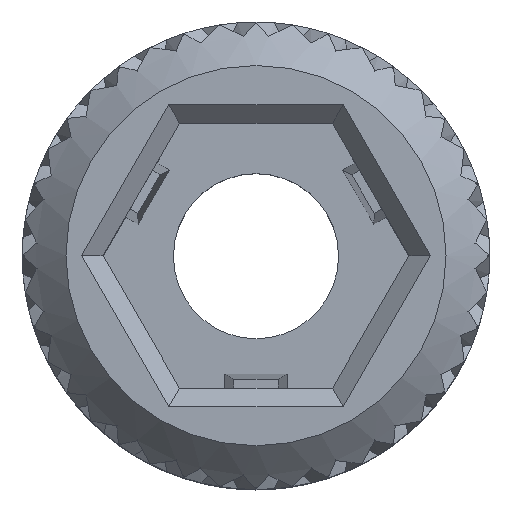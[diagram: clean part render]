
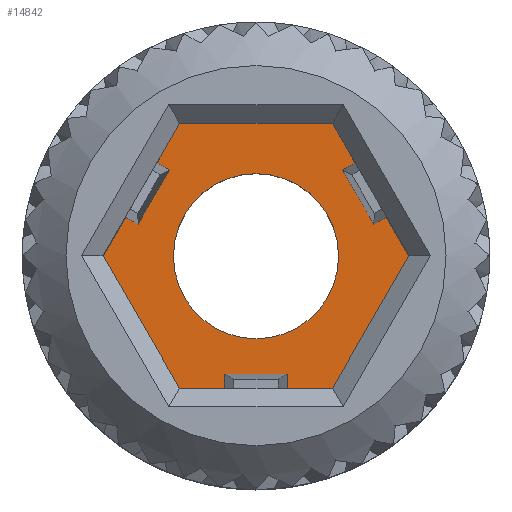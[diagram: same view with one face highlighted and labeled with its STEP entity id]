
A CAD part, top view. The second image highlights one B-rep face of the part: STEP entity #14842.
In plain terms, the highlighted planar face has unit normal (0, 0, 1).
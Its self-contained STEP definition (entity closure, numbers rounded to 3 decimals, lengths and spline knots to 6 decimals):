
#28=PLANE('',#15931);
#144=LINE('',#27961,#370);
#148=LINE('',#27969,#374);
#151=LINE('',#27975,#377);
#154=LINE('',#27981,#380);
#158=LINE('',#27989,#384);
#161=LINE('',#27995,#387);
#164=LINE('',#28001,#390);
#168=LINE('',#28009,#394);
#170=LINE('',#28012,#396);
#171=LINE('',#28014,#397);
#172=LINE('',#28016,#398);
#173=LINE('',#28018,#399);
#174=LINE('',#28019,#400);
#175=LINE('',#28021,#401);
#176=LINE('',#28023,#402);
#177=LINE('',#28024,#403);
#178=LINE('',#28026,#404);
#179=LINE('',#28028,#405);
#370=VECTOR('',#16508,1.);
#374=VECTOR('',#16512,1.);
#377=VECTOR('',#16517,1.);
#380=VECTOR('',#16522,1.);
#384=VECTOR('',#16526,1.);
#387=VECTOR('',#16531,1.);
#390=VECTOR('',#16536,1.);
#394=VECTOR('',#16540,1.);
#396=VECTOR('',#16544,1.);
#397=VECTOR('',#16547,1.);
#398=VECTOR('',#16548,1.);
#399=VECTOR('',#16549,1.);
#400=VECTOR('',#16550,1.);
#401=VECTOR('',#16551,1.);
#402=VECTOR('',#16552,1.);
#403=VECTOR('',#16553,1.);
#404=VECTOR('',#16554,1.);
#405=VECTOR('',#16555,1.);
#2403=CIRCLE('',#15920,0.00265);
#3872=ORIENTED_EDGE('',*,*,#8390,.F.);
#3873=ORIENTED_EDGE('',*,*,#8391,.T.);
#3874=ORIENTED_EDGE('',*,*,#8392,.T.);
#3875=ORIENTED_EDGE('',*,*,#8373,.T.);
#3876=ORIENTED_EDGE('',*,*,#8380,.T.);
#3877=ORIENTED_EDGE('',*,*,#8387,.T.);
#3878=ORIENTED_EDGE('',*,*,#8393,.F.);
#3879=ORIENTED_EDGE('',*,*,#8394,.T.);
#3880=ORIENTED_EDGE('',*,*,#8395,.T.);
#3881=ORIENTED_EDGE('',*,*,#8383,.T.);
#3882=ORIENTED_EDGE('',*,*,#8389,.T.);
#3883=ORIENTED_EDGE('',*,*,#8367,.T.);
#3884=ORIENTED_EDGE('',*,*,#8396,.F.);
#3885=ORIENTED_EDGE('',*,*,#8397,.T.);
#3886=ORIENTED_EDGE('',*,*,#8398,.T.);
#3887=ORIENTED_EDGE('',*,*,#8363,.T.);
#3888=ORIENTED_EDGE('',*,*,#8370,.T.);
#3889=ORIENTED_EDGE('',*,*,#8377,.T.);
#3890=ORIENTED_EDGE('',*,*,#8348,.F.);
#8348=EDGE_CURVE('',#10450,#10450,#2403,.T.);
#8363=EDGE_CURVE('',#10465,#10464,#144,.T.);
#8367=EDGE_CURVE('',#10461,#10468,#148,.T.);
#8370=EDGE_CURVE('',#10464,#10470,#151,.T.);
#8373=EDGE_CURVE('',#10473,#10472,#154,.T.);
#8377=EDGE_CURVE('',#10470,#10476,#158,.T.);
#8380=EDGE_CURVE('',#10472,#10478,#161,.T.);
#8383=EDGE_CURVE('',#10481,#10480,#164,.T.);
#8387=EDGE_CURVE('',#10478,#10484,#168,.T.);
#8389=EDGE_CURVE('',#10480,#10461,#170,.T.);
#8390=EDGE_CURVE('',#10485,#10476,#171,.T.);
#8391=EDGE_CURVE('',#10485,#10486,#172,.T.);
#8392=EDGE_CURVE('',#10486,#10473,#173,.T.);
#8393=EDGE_CURVE('',#10487,#10484,#174,.T.);
#8394=EDGE_CURVE('',#10487,#10488,#175,.T.);
#8395=EDGE_CURVE('',#10488,#10481,#176,.T.);
#8396=EDGE_CURVE('',#10489,#10468,#177,.T.);
#8397=EDGE_CURVE('',#10489,#10490,#178,.T.);
#8398=EDGE_CURVE('',#10490,#10465,#179,.T.);
#10450=VERTEX_POINT('',#27896);
#10461=VERTEX_POINT('',#27955);
#10464=VERTEX_POINT('',#27960);
#10465=VERTEX_POINT('',#27962);
#10468=VERTEX_POINT('',#27968);
#10470=VERTEX_POINT('',#27974);
#10472=VERTEX_POINT('',#27980);
#10473=VERTEX_POINT('',#27982);
#10476=VERTEX_POINT('',#27988);
#10478=VERTEX_POINT('',#27994);
#10480=VERTEX_POINT('',#28000);
#10481=VERTEX_POINT('',#28002);
#10484=VERTEX_POINT('',#28008);
#10485=VERTEX_POINT('',#28015);
#10486=VERTEX_POINT('',#28017);
#10487=VERTEX_POINT('',#28020);
#10488=VERTEX_POINT('',#28022);
#10489=VERTEX_POINT('',#28025);
#10490=VERTEX_POINT('',#28027);
#12253=EDGE_LOOP('',(#3872,#3873,#3874,#3875,#3876,#3877,#3878,#3879,#3880,
#3881,#3882,#3883,#3884,#3885,#3886,#3887,#3888,#3889));
#12254=EDGE_LOOP('',(#3890));
#13449=FACE_BOUND('',#12253,.T.);
#13450=FACE_BOUND('',#12254,.T.);
#14842=ADVANCED_FACE('',(#13449,#13450),#28,.T.);
#15920=AXIS2_PLACEMENT_3D('',#27895,#16487,#16488);
#15931=AXIS2_PLACEMENT_3D('',#28013,#16545,#16546);
#16487=DIRECTION('',(0.,0.,1.));
#16488=DIRECTION('',(1.,0.,0.));
#16508=DIRECTION('',(-0.5,0.866,0.));
#16512=DIRECTION('',(-0.5,0.866,0.));
#16517=DIRECTION('',(-1.,0.,0.));
#16522=DIRECTION('',(-0.5,-0.866,0.));
#16526=DIRECTION('',(-0.5,-0.866,0.));
#16531=DIRECTION('',(0.5,-0.866,0.));
#16536=DIRECTION('',(1.,0.,0.));
#16540=DIRECTION('',(1.,0.,0.));
#16544=DIRECTION('',(0.5,0.866,0.));
#16545=DIRECTION('',(0.,0.,1.));
#16546=DIRECTION('',(1.,0.,0.));
#16547=DIRECTION('',(-0.866,0.5,0.));
#16548=DIRECTION('',(-0.5,-0.866,0.));
#16549=DIRECTION('',(-0.866,0.5,0.));
#16550=DIRECTION('',(0.,-1.,0.));
#16551=DIRECTION('',(1.,0.,0.));
#16552=DIRECTION('',(0.,-1.,0.));
#16553=DIRECTION('',(0.866,0.5,0.));
#16554=DIRECTION('',(-0.5,0.866,0.));
#16555=DIRECTION('',(0.866,0.5,0.));
#27895=CARTESIAN_POINT('',(0.,0.,0.002));
#27896=CARTESIAN_POINT('',(0.00265,0.,0.002));
#27955=CARTESIAN_POINT('',(0.004907,0.,0.002));
#27960=CARTESIAN_POINT('',(0.002454,0.00425,0.002));
#27961=CARTESIAN_POINT('',(0.003681,0.002125,0.002));
#27962=CARTESIAN_POINT('',(0.003181,0.002991,0.002));
#27968=CARTESIAN_POINT('',(0.004181,0.001259,0.002));
#27969=CARTESIAN_POINT('',(0.003681,0.002125,0.002));
#27974=CARTESIAN_POINT('',(-0.002454,0.00425,0.002));
#27975=CARTESIAN_POINT('',(0.,0.00425,0.002));
#27980=CARTESIAN_POINT('',(-0.004907,0.,0.002));
#27981=CARTESIAN_POINT('',(-0.003681,0.002125,0.002));
#27982=CARTESIAN_POINT('',(-0.004181,0.001259,0.002));
#27988=CARTESIAN_POINT('',(-0.003181,0.002991,0.002));
#27989=CARTESIAN_POINT('',(-0.003681,0.002125,0.002));
#27994=CARTESIAN_POINT('',(-0.002454,-0.00425,0.002));
#27995=CARTESIAN_POINT('',(-0.003681,-0.002125,0.002));
#28000=CARTESIAN_POINT('',(0.002454,-0.00425,0.002));
#28001=CARTESIAN_POINT('',(0.,-0.00425,0.002));
#28002=CARTESIAN_POINT('',(0.001,-0.00425,0.002));
#28008=CARTESIAN_POINT('',(-0.001,-0.00425,0.002));
#28009=CARTESIAN_POINT('',(0.,-0.00425,0.002));
#28012=CARTESIAN_POINT('',(0.003681,-0.002125,0.002));
#28013=CARTESIAN_POINT('',(0.,0.,0.002));
#28014=CARTESIAN_POINT('',(-0.003033,0.002906,0.002));
#28015=CARTESIAN_POINT('',(-0.002783,0.002762,0.002));
#28016=CARTESIAN_POINT('',(-0.003283,0.001895,0.002));
#28017=CARTESIAN_POINT('',(-0.003783,0.001029,0.002));
#28018=CARTESIAN_POINT('',(-0.004033,0.001173,0.002));
#28019=CARTESIAN_POINT('',(-0.001,-0.004079,0.002));
#28020=CARTESIAN_POINT('',(-0.001,-0.003791,0.002));
#28021=CARTESIAN_POINT('',(0.,-0.003791,0.002));
#28022=CARTESIAN_POINT('',(0.001,-0.003791,0.002));
#28023=CARTESIAN_POINT('',(0.001,-0.004079,0.002));
#28024=CARTESIAN_POINT('',(0.004033,0.001173,0.002));
#28025=CARTESIAN_POINT('',(0.003783,0.001029,0.002));
#28026=CARTESIAN_POINT('',(0.003283,0.001895,0.002));
#28027=CARTESIAN_POINT('',(0.002783,0.002762,0.002));
#28028=CARTESIAN_POINT('',(0.003033,0.002906,0.002));
